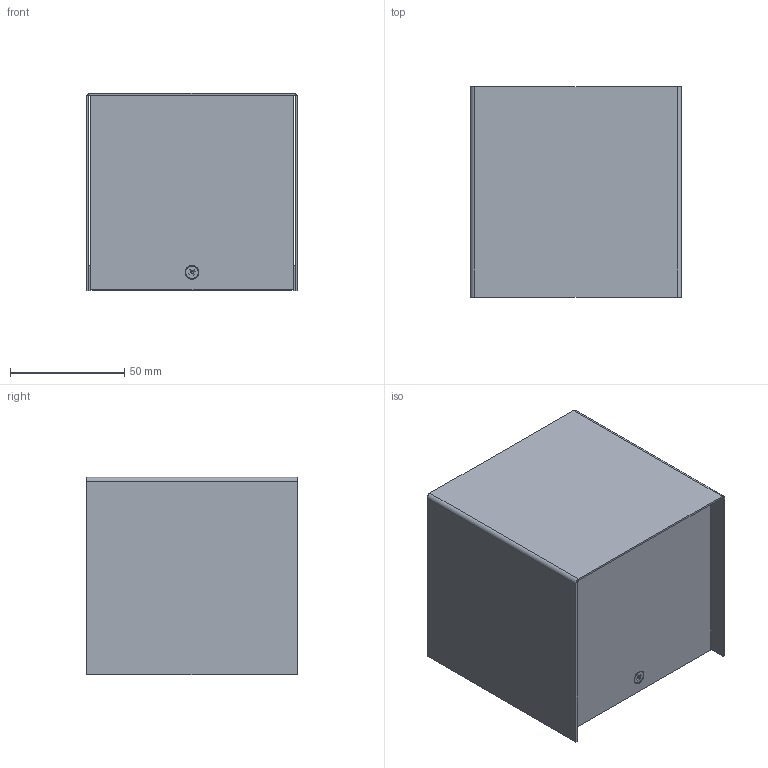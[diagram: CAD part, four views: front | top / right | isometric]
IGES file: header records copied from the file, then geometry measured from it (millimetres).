
Start section: SolidWorks IGES file using analytic representation for surfaces
Global section: file name: \\DC2003\projekty\CUBE\CUBE 5267 5266 5272.IGS; native system: SolidWorks 2016; preprocessor: SolidWorks 2016; author: ｣ukasz; date: 160705.141242; units: millimetre
Bounding box: 92.2 x 92 x 86.33 mm (x, y, z)
Surface area: 104125.8 mm2 (no closed solid volume)
Topology: 0 solids, 0 shells, 299 faces, 3060 edges, 3052 vertices
Faces by surface type: bspline 171, revolution 128
